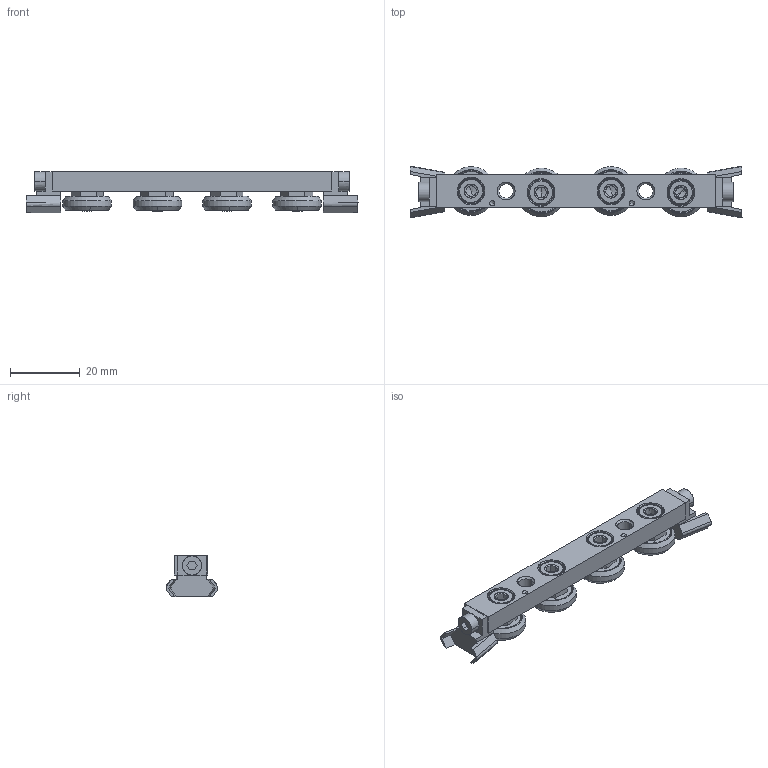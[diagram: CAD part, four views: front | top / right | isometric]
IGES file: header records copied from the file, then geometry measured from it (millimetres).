
Start section: SolidWorks IGES file using analytic representation for surfaces
Global section: file name: E:\J-00018 - L1918-L1963 LCompact Rail\L1918_v2\L1918.CSW18_v2\L1918.CSW18_IGES\L1918.CSW18-80-2RSTB.igs; native system: SolidWorks 2017; preprocessor: SolidWorks 2017; author: liam_; date: 190629.230438; units: millimetre
Bounding box: 95 x 14.8 x 11.95 mm (x, y, z)
Surface area: 7464.1 mm2 (no closed solid volume)
Topology: 0 solids, 0 shells, 412 faces, 5226 edges, 5202 vertices
Faces by surface type: bspline 232, revolution 180
